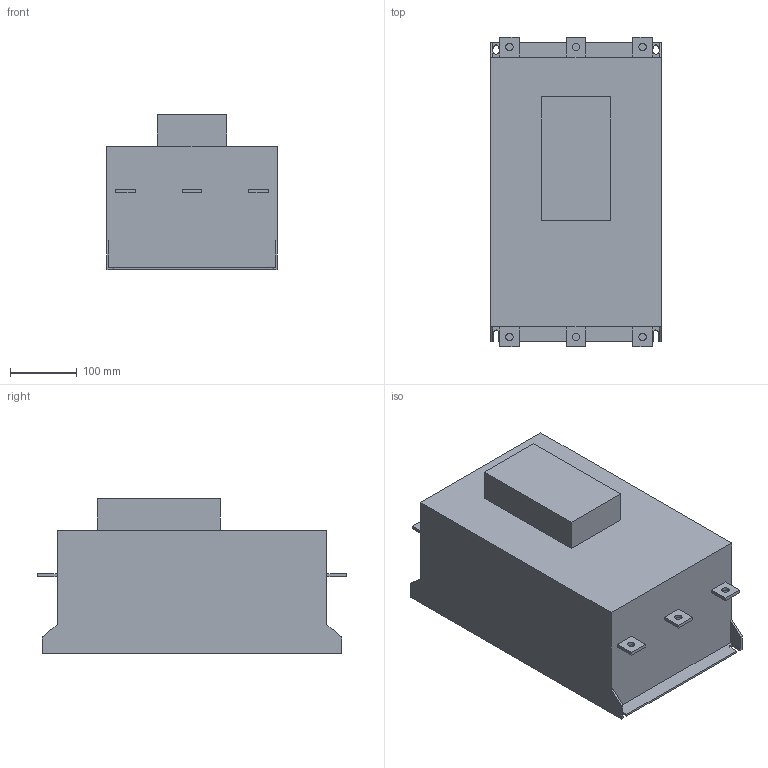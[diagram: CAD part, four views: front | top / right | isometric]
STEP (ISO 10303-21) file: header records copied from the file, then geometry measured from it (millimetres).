
FILE_DESCRIPTION(/* description */ (''),/* implementation_level */ '2;1');
FILE_NAME(/* name */ 'O:\БЭМ\Personal\Абрамов\262-20-1 ТП Драчево\3D Inventor\MCD1\MCD5 F4.stp',/* time_stamp */ '2023-10-12T06:03:00+03:00',/* author */ ('a.abramov'),/* organization */ (''),/* preprocessor_version */ 'ST-DEVELOPER v18.1',/* originating_system */ 'Autodesk Inventor 2022',/* authorisation */ '');
FILE_SCHEMA (('AUTOMOTIVE_DESIGN { 1 0 10303 214 3 1 1 }'));
Length unit declared in the file: millimetre
Products named in the file (1): MCD5 F4
Bounding box: 256 x 465 x 233 mm (x, y, z)
Volume: 20178001.2 mm3; surface area: 519926.4 mm2
Topology: 1 solids, 1 shells, 73 faces, 194 edges, 128 vertices
Faces by surface type: plane 61, cylinder 12
Full cylindrical faces by diameter (mm): 11 x6
Entity records: 2317 total; most frequent: CARTESIAN_POINT 396, ORIENTED_EDGE 388, DIRECTION 370, EDGE_CURVE 194, LINE 166, VECTOR 166, VERTEX_POINT 128, AXIS2_PLACEMENT_3D 102
